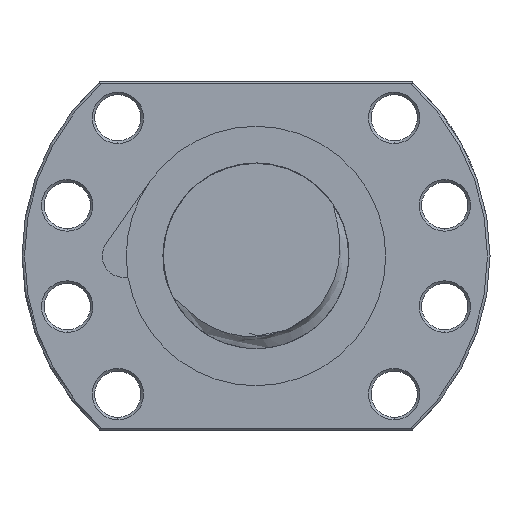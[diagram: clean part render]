
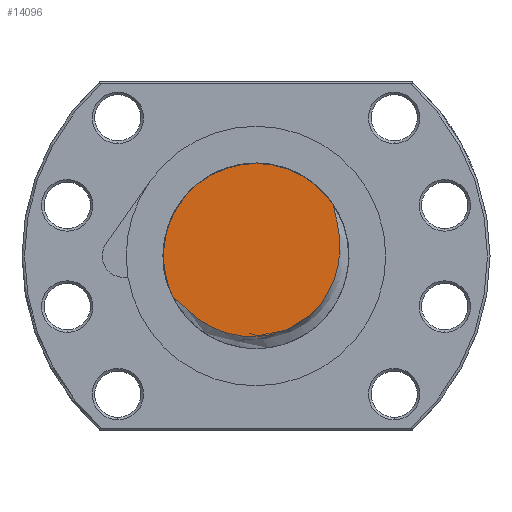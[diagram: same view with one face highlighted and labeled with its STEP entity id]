
A CAD part, left-side view. The second image highlights one B-rep face of the part: STEP entity #14096.
In plain terms, the highlighted planar face has unit normal (-1, 0, 0).
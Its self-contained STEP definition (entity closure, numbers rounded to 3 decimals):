
#2873 = CARTESIAN_POINT ( 'NONE',  ( -232., -15.025, 9.912 ) ) ;
#2874 = CARTESIAN_POINT ( 'NONE',  ( -232., -15.065, 9.638 ) ) ;
#2875 = CARTESIAN_POINT ( 'NONE',  ( -232., -15.124, 9.367 ) ) ;
#2876 = CARTESIAN_POINT ( 'NONE',  ( -232., -15.247, 8.828 ) ) ;
#2877 = CARTESIAN_POINT ( 'NONE',  ( -232., -15.314, 8.559 ) ) ;
#2878 = CARTESIAN_POINT ( 'NONE',  ( -232., -15.512, 7.752 ) ) ;
#2879 = CARTESIAN_POINT ( 'NONE',  ( -232., -15.642, 7.214 ) ) ;
#2880 = CARTESIAN_POINT ( 'NONE',  ( -232., -15.988, 5.593 ) ) ;
#2881 = CARTESIAN_POINT ( 'NONE',  ( -232., -16.16, 4.505 ) ) ;
#2882 = CARTESIAN_POINT ( 'NONE',  ( -232., -16.289, 2.854 ) ) ;
#2883 = CARTESIAN_POINT ( 'NONE',  ( -232., -16.31, 2.3 ) ) ;
#2884 = CARTESIAN_POINT ( 'NONE',  ( -232., -16.307, 1.187 ) ) ;
#2885 = CARTESIAN_POINT ( 'NONE',  ( -232., -16.281, 0.629 ) ) ;
#2886 = CARTESIAN_POINT ( 'NONE',  ( -232., -16.132, -1.024 ) ) ;
#2887 = CARTESIAN_POINT ( 'NONE',  ( -232., -15.938, -2.109 ) ) ;
#2888 = CARTESIAN_POINT ( 'NONE',  ( -232., -15.495, -3.711 ) ) ;
#2889 = CARTESIAN_POINT ( 'NONE',  ( -232., -15.321, -4.243 ) ) ;
#2890 = CARTESIAN_POINT ( 'NONE',  ( -232., -14.924, -5.282 ) ) ;
#2891 = CARTESIAN_POINT ( 'NONE',  ( -232., -14.702, -5.789 ) ) ;
#2892 = CARTESIAN_POINT ( 'NONE',  ( -232., -13.968, -7.272 ) ) ;
#2893 = CARTESIAN_POINT ( 'NONE',  ( -232., -13.388, -8.211 ) ) ;
#2894 = CARTESIAN_POINT ( 'NONE',  ( -232., -12.371, -9.54 ) ) ;
#2895 = CARTESIAN_POINT ( 'NONE',  ( -232., -12.01, -9.965 ) ) ;
#2896 = CARTESIAN_POINT ( 'NONE',  ( -232., -11.255, -10.772 ) ) ;
#2897 = CARTESIAN_POINT ( 'NONE',  ( -232., -10.86, -11.156 ) ) ;
#2898 = CARTESIAN_POINT ( 'NONE',  ( -232., -10.032, -11.884 ) ) ;
#2899 = CARTESIAN_POINT ( 'NONE',  ( -232., -9.6, -12.227 ) ) ;
#2900 = CARTESIAN_POINT ( 'NONE',  ( -232., -8.698, -12.874 ) ) ;
#2901 = CARTESIAN_POINT ( 'NONE',  ( -232., -8.226, -13.178 ) ) ;
#2902 = CARTESIAN_POINT ( 'NONE',  ( -232., -6.784, -14.008 ) ) ;
#2903 = CARTESIAN_POINT ( 'NONE',  ( -232., -5.779, -14.461 ) ) ;
#2904 = CARTESIAN_POINT ( 'NONE',  ( -232., -4.21, -14.99 ) ) ;
#2905 = CARTESIAN_POINT ( 'NONE',  ( -232., -3.676, -15.141 ) ) ;
#2906 = CARTESIAN_POINT ( 'NONE',  ( -232., -2.587, -15.391 ) ) ;
#2907 = CARTESIAN_POINT ( 'NONE',  ( -232., -2.041, -15.488 ) ) ;
#2908 = CARTESIAN_POINT ( 'NONE',  ( -232., -0.399, -15.7 ) ) ;
#2909 = CARTESIAN_POINT ( 'NONE',  ( -232., 0.701, -15.733 ) ) ;
#2910 = CARTESIAN_POINT ( 'NONE',  ( -232., 2.358, -15.625 ) ) ;
#2911 = CARTESIAN_POINT ( 'NONE',  ( -232., 2.914, -15.562 ) ) ;
#2912 = CARTESIAN_POINT ( 'NONE',  ( -232., 4.012, -15.384 ) ) ;
#2913 = CARTESIAN_POINT ( 'NONE',  ( -232., 4.553, -15.27 ) ) ;
#2914 = CARTESIAN_POINT ( 'NONE',  ( -232., 6.153, -14.854 ) ) ;
#2915 = CARTESIAN_POINT ( 'NONE',  ( -232., 7.19, -14.479 ) ) ;
#2916 = CARTESIAN_POINT ( 'NONE',  ( -232., 8.702, -13.777 ) ) ;
#2917 = CARTESIAN_POINT ( 'NONE',  ( -232., 9.199, -13.519 ) ) ;
#2918 = CARTESIAN_POINT ( 'NONE',  ( -232., 10.159, -12.968 ) ) ;
#2919 = CARTESIAN_POINT ( 'NONE',  ( -232., 10.625, -12.674 ) ) ;
#2920 = CARTESIAN_POINT ( 'NONE',  ( -232., 11.985, -11.74 ) ) ;
#2921 = CARTESIAN_POINT ( 'NONE',  ( -232., 12.839, -11.048 ) ) ;
#2922 = CARTESIAN_POINT ( 'NONE',  ( -232., 14.069, -9.939 ) ) ;
#2923 = CARTESIAN_POINT ( 'NONE',  ( -232., 14.47, -9.557 ) ) ;
#2924 = CARTESIAN_POINT ( 'NONE',  ( -232., 15.069, -8.983 ) ) ;
#2925 = CARTESIAN_POINT ( 'NONE',  ( -232., 15.269, -8.791 ) ) ;
#2926 = CARTESIAN_POINT ( 'NONE',  ( -232., 15.674, -8.414 ) ) ;
#2927 = CARTESIAN_POINT ( 'NONE',  ( -232., 15.879, -8.228 ) ) ;
#2928 = CARTESIAN_POINT ( 'NONE',  ( -232., 16.096, -8.056 ) ) ;
#2929 = B_SPLINE_CURVE_WITH_KNOTS ( 'NONE', 3,
 ( #2928, #2927, #2926, #2925, #2924, #2923, #2922, #2921, #2920, #2919, #2918, #2917, #2916, #2915, #2914, #2913, #2912, #2911, #2910, #2909, #2908, #2907, #2906, #2905, #2904, #2903, #2902, #2901, #2900, #2899, #2898, #2897, #2896, #2895, #2894, #2893, #2892, #2891, #2890, #2889, #2888, #2887, #2886, #2885, #2884, #2883, #2882, #2881, #2880, #2879, #2878, #2877, #2876, #2875, #2874, #2873 ),
 .UNSPECIFIED., .F., .F.,
 ( 4, 2, 2, 2, 2, 2, 2, 2, 2, 2, 2, 2, 2, 2, 2, 2, 2, 2, 2, 2, 2, 2, 2, 2, 2, 2, 2, 4 ),
 ( 0.014, 0.015, 0.016, 0.017, 0.02, 0.022, 0.024, 0.027, 0.029, 0.03, 0.034, 0.035, 0.037, 0.04, 0.042, 0.043, 0.045, 0.047, 0.05, 0.052, 0.053, 0.056, 0.058, 0.06, 0.063, 0.065, 0.065, 0.066 ),
 .UNSPECIFIED. ) ;
#2931 = PLANE ( 'NONE',  #2952 ) ;
#2949 = DIRECTION ( 'NONE',  ( 0., 0., -1. ) ) ;
#2950 = DIRECTION ( 'NONE',  ( 1., 0., 0. ) ) ;
#2951 = CARTESIAN_POINT ( 'NONE',  ( -232., 0., 0. ) ) ;
#2952 = AXIS2_PLACEMENT_3D ( 'NONE', #2951, #2950, #2949 ) ;
#2956 = FACE_OUTER_BOUND ( 'NONE', #14093, .T. ) ;
#12624 = EDGE_CURVE ( 'NONE', #12625, #12626, #18315, .T. ) ;
#12625 = VERTEX_POINT ( 'NONE', #18186 ) ;
#12626 = VERTEX_POINT ( 'NONE', #18175 ) ;
#14093 = EDGE_LOOP ( 'NONE', ( #14098, #14100, #14104 ) ) ;
#14096 = ADVANCED_FACE ( 'NONE', ( #2956 ), #2931, .F. ) ;
#14098 = ORIENTED_EDGE ( 'NONE', *, *, #12624, .F. ) ;
#14100 = ORIENTED_EDGE ( 'NONE', *, *, #14102, .T. ) ;
#14102 = EDGE_CURVE ( 'NONE', #12625, #14411, #2929, .T. ) ;
#14104 = ORIENTED_EDGE ( 'NONE', *, *, #14410, .F. ) ;
#14410 = EDGE_CURVE ( 'NONE', #12626, #14411, #43985, .T. ) ;
#14411 = VERTEX_POINT ( 'NONE', #43986 ) ;
#18175 = CARTESIAN_POINT ( 'NONE',  ( -232., 0., 18. ) ) ;
#18178 = DIRECTION ( 'NONE',  ( 0., 1., 0. ) ) ;
#18180 = DIRECTION ( 'NONE',  ( 1., 0., 0. ) ) ;
#18182 = CARTESIAN_POINT ( 'NONE',  ( -232., 0., 0. ) ) ;
#18183 = AXIS2_PLACEMENT_3D ( 'NONE', #18182, #18180, #18178 ) ;
#18186 = CARTESIAN_POINT ( 'NONE',  ( -232., 16.096, -8.056 ) ) ;
#18315 = CIRCLE ( 'NONE', #18183, 18. ) ;
#43981 = DIRECTION ( 'NONE',  ( 0., 1., 0. ) ) ;
#43982 = DIRECTION ( 'NONE',  ( 1., 0., 0. ) ) ;
#43983 = CARTESIAN_POINT ( 'NONE',  ( -232., 0., 0. ) ) ;
#43984 = AXIS2_PLACEMENT_3D ( 'NONE', #43983, #43982, #43981 ) ;
#43985 = CIRCLE ( 'NONE', #43984, 18. ) ;
#43986 = CARTESIAN_POINT ( 'NONE',  ( -232., -15.025, 9.912 ) ) ;
